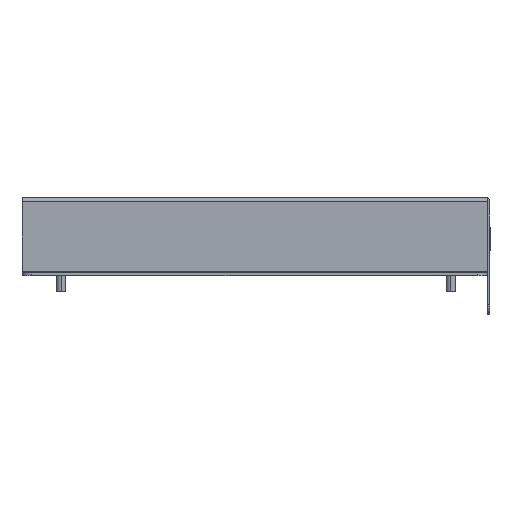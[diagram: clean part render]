
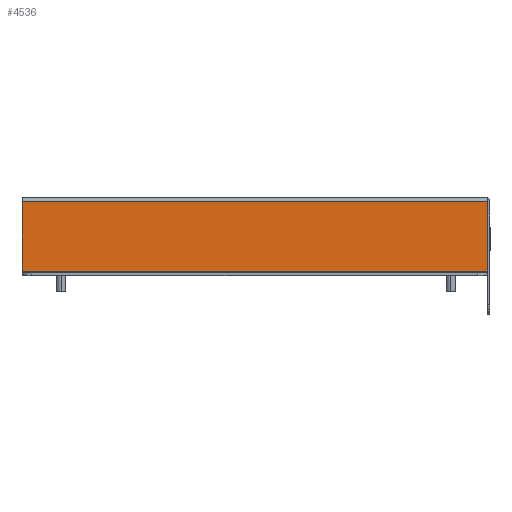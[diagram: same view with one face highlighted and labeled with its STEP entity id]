
A CAD part, left-side view. The second image highlights one B-rep face of the part: STEP entity #4536.
In plain terms, the highlighted planar face has unit normal (-1, 0, 0).
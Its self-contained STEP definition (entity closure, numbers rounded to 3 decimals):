
#3951=CARTESIAN_POINT(' ',(-224.,-119.25,-37.75));
#3956=DIRECTION(' ',(0.,1.,0.));
#3961=VECTOR(' ',#3956,1.);
#3966=LINE('',#3951,#3961);
#3971=CARTESIAN_POINT(' ',(-224.,-119.25,-37.75));
#3972=VERTEX_POINT(' ',#3971);
#3976=CARTESIAN_POINT(' ',(-224.,119.25,-37.75));
#3977=VERTEX_POINT(' ',#3976);
#3981=EDGE_CURVE(' ',#3972,#3977,#3966,.T.);
#4396=DIRECTION(' ',(-1.,0.,0.));
#4401=CARTESIAN_POINT(' ',(-224.,119.25,-37.75));
#4406=DIRECTION(' ',(0.,-1.,0.));
#4411=AXIS2_PLACEMENT_3D(' ',#4401,#4396,#4406);
#4416=PLANE('NONE',#4411);
#4421=ORIENTED_EDGE(' ',*,*,#3981,.F.);
#4426=CARTESIAN_POINT(' ',(-224.,-119.25,-2.25));
#4431=DIRECTION(' ',(0.,0.,-1.));
#4436=VECTOR(' ',#4431,1.);
#4441=LINE('',#4426,#4436);
#4446=CARTESIAN_POINT(' ',(-224.,-119.25,-2.25));
#4447=VERTEX_POINT(' ',#4446);
#4451=EDGE_CURVE(' ',#4447,#3972,#4441,.T.);
#4456=ORIENTED_EDGE(' ',*,*,#4451,.F.);
#4461=CARTESIAN_POINT(' ',(-224.,119.25,-2.25));
#4466=DIRECTION(' ',(0.,-1.,0.));
#4471=VECTOR(' ',#4466,1.);
#4476=LINE('',#4461,#4471);
#4481=CARTESIAN_POINT(' ',(-224.,119.25,-2.25));
#4482=VERTEX_POINT(' ',#4481);
#4486=EDGE_CURVE(' ',#4482,#4447,#4476,.T.);
#4491=ORIENTED_EDGE(' ',*,*,#4486,.F.);
#4496=CARTESIAN_POINT(' ',(-224.,119.25,-37.75));
#4501=DIRECTION(' ',(0.,0.,1.));
#4506=VECTOR(' ',#4501,1.);
#4511=LINE('',#4496,#4506);
#4516=EDGE_CURVE(' ',#3977,#4482,#4511,.T.);
#4521=ORIENTED_EDGE(' ',*,*,#4516,.F.);
#4526=EDGE_LOOP(' ',(#4421,#4456,#4491,#4521));
#4531=FACE_OUTER_BOUND(' ',#4526,.T.);
#4536=ADVANCED_FACE('NONE',(#4531),#4416,.T.);
